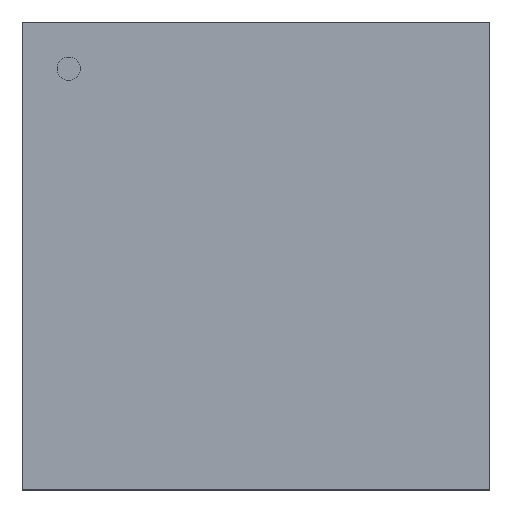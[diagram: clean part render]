
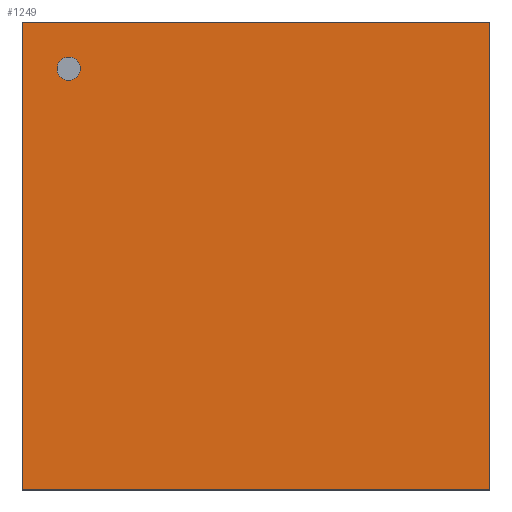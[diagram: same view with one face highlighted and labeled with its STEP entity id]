
A CAD part, top view. The second image highlights one B-rep face of the part: STEP entity #1249.
In plain terms, the highlighted planar face has unit normal (0, 0, 1).
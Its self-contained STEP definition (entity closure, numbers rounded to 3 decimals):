
#1025=CARTESIAN_POINT('',(5.245,-5.245,1.27));
#1024=VERTEX_POINT('',#1025);
#1035=CARTESIAN_POINT('',(-5.245,-5.245,1.27));
#1034=VERTEX_POINT('',#1035);
#1033=EDGE_CURVE('',#1034,#1024,#1038,.T.);
#1038=LINE('',#1035,#1040);
#1040=VECTOR('',#1041,10.49);
#1041=DIRECTION('',(1.0,0.0,0.0));
#1074=CARTESIAN_POINT('',(5.245,5.245,1.27));
#1073=VERTEX_POINT('',#1074);
#1082=EDGE_CURVE('',#1024,#1073,#1087,.T.);
#1087=LINE('',#1025,#1089);
#1089=VECTOR('',#1090,10.49);
#1090=DIRECTION('',(0.0,1.0,0.0));
#1123=CARTESIAN_POINT('',(-5.245,5.245,1.27));
#1122=VERTEX_POINT('',#1123);
#1131=EDGE_CURVE('',#1073,#1122,#1136,.T.);
#1136=LINE('',#1074,#1138);
#1138=VECTOR('',#1139,10.49);
#1139=DIRECTION('',(-1.0,0.0,0.0));
#1180=EDGE_CURVE('',#1122,#1034,#1185,.T.);
#1185=LINE('',#1123,#1187);
#1187=VECTOR('',#1188,10.49);
#1188=DIRECTION('',(0.0,-1.0,0.0));
#1249=ADVANCED_FACE('',(#1255),#1250,.T.);
#1250=PLANE('',#1251);
#1251=AXIS2_PLACEMENT_3D('',#1252,#1253,#1254);
#1252=CARTESIAN_POINT('',(-5.245,-5.245,1.27));
#1253=DIRECTION('',(0.0,0.0,1.0));
#1254=DIRECTION('',(0.,1.,0.));
#1255=FACE_OUTER_BOUND('',#1256,.T.);
#1256=EDGE_LOOP('',(#1257,#1267,#1277,#1287));
#1257=ORIENTED_EDGE('',*,*,#1033,.T.);
#1267=ORIENTED_EDGE('',*,*,#1082,.T.);
#1277=ORIENTED_EDGE('',*,*,#1131,.T.);
#1287=ORIENTED_EDGE('',*,*,#1180,.T.);
